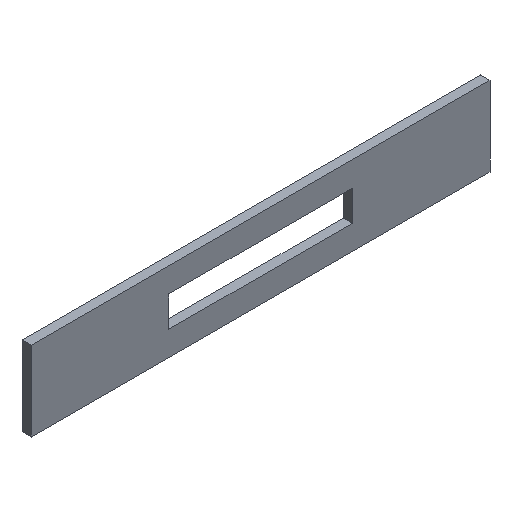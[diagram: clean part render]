
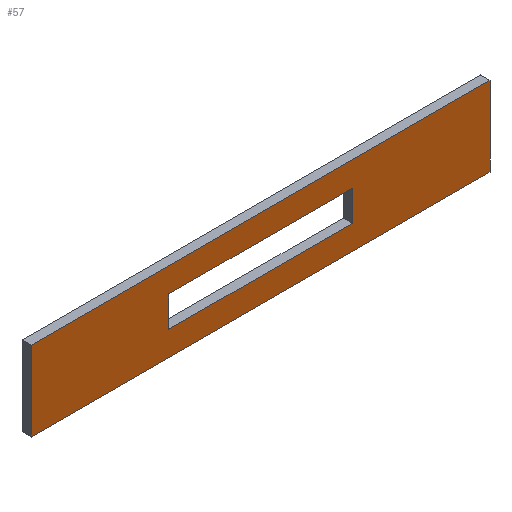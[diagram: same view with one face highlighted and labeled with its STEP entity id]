
A CAD part, isometric view. The second image highlights one B-rep face of the part: STEP entity #57.
In plain terms, the highlighted planar face has unit normal (0, -1, 0).
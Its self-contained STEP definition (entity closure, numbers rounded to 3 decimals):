
#21 = EDGE_CURVE('',#22,#24,#26,.T.);
#22 = VERTEX_POINT('',#23);
#23 = CARTESIAN_POINT('',(-75.,127.,61.781));
#24 = VERTEX_POINT('',#25);
#25 = CARTESIAN_POINT('',(-75.,127.,87.781));
#26 = LINE('',#27,#28);
#27 = CARTESIAN_POINT('',(-75.,127.,61.781));
#28 = VECTOR('',#29,1.);
#29 = DIRECTION('',(0.,0.,1.));
#57 = ADVANCED_FACE('',(#58,#83),#117,.F.);
#58 = FACE_BOUND('',#59,.F.);
#59 = EDGE_LOOP('',(#60,#68,#69,#77));
#60 = ORIENTED_EDGE('',*,*,#61,.F.);
#61 = EDGE_CURVE('',#22,#62,#64,.T.);
#62 = VERTEX_POINT('',#63);
#63 = CARTESIAN_POINT('',(75.,127.,61.781));
#64 = LINE('',#65,#66);
#65 = CARTESIAN_POINT('',(-75.,127.,61.781));
#66 = VECTOR('',#67,1.);
#67 = DIRECTION('',(1.,0.,0.));
#68 = ORIENTED_EDGE('',*,*,#21,.T.);
#69 = ORIENTED_EDGE('',*,*,#70,.T.);
#70 = EDGE_CURVE('',#24,#71,#73,.T.);
#71 = VERTEX_POINT('',#72);
#72 = CARTESIAN_POINT('',(75.,127.,87.781));
#73 = LINE('',#74,#75);
#74 = CARTESIAN_POINT('',(-75.,127.,87.781));
#75 = VECTOR('',#76,1.);
#76 = DIRECTION('',(1.,0.,0.));
#77 = ORIENTED_EDGE('',*,*,#78,.F.);
#78 = EDGE_CURVE('',#62,#71,#79,.T.);
#79 = LINE('',#80,#81);
#80 = CARTESIAN_POINT('',(75.,127.,61.781));
#81 = VECTOR('',#82,1.);
#82 = DIRECTION('',(0.,0.,1.));
#83 = FACE_BOUND('',#84,.F.);
#84 = EDGE_LOOP('',(#85,#95,#103,#111));
#85 = ORIENTED_EDGE('',*,*,#86,.F.);
#86 = EDGE_CURVE('',#87,#89,#91,.T.);
#87 = VERTEX_POINT('',#88);
#88 = CARTESIAN_POINT('',(-30.,127.,79.781));
#89 = VERTEX_POINT('',#90);
#90 = CARTESIAN_POINT('',(30.,127.,79.781));
#91 = LINE('',#92,#93);
#92 = CARTESIAN_POINT('',(-52.5,127.,79.781));
#93 = VECTOR('',#94,1.);
#94 = DIRECTION('',(1.,0.,0.));
#95 = ORIENTED_EDGE('',*,*,#96,.T.);
#96 = EDGE_CURVE('',#87,#97,#99,.T.);
#97 = VERTEX_POINT('',#98);
#98 = CARTESIAN_POINT('',(-30.,127.,69.781));
#99 = LINE('',#100,#101);
#100 = CARTESIAN_POINT('',(-30.,127.,65.781));
#101 = VECTOR('',#102,1.);
#102 = DIRECTION('',(0.,0.,-1.));
#103 = ORIENTED_EDGE('',*,*,#104,.T.);
#104 = EDGE_CURVE('',#97,#105,#107,.T.);
#105 = VERTEX_POINT('',#106);
#106 = CARTESIAN_POINT('',(30.,127.,69.781));
#107 = LINE('',#108,#109);
#108 = CARTESIAN_POINT('',(-52.5,127.,69.781));
#109 = VECTOR('',#110,1.);
#110 = DIRECTION('',(1.,0.,0.));
#111 = ORIENTED_EDGE('',*,*,#112,.F.);
#112 = EDGE_CURVE('',#89,#105,#113,.T.);
#113 = LINE('',#114,#115);
#114 = CARTESIAN_POINT('',(30.,127.,65.781));
#115 = VECTOR('',#116,1.);
#116 = DIRECTION('',(0.,0.,-1.));
#117 = PLANE('',#118);
#118 = AXIS2_PLACEMENT_3D('',#119,#120,#121);
#119 = CARTESIAN_POINT('',(-75.,127.,61.781));
#120 = DIRECTION('',(0.,1.,0.));
#121 = DIRECTION('',(0.,0.,1.));
